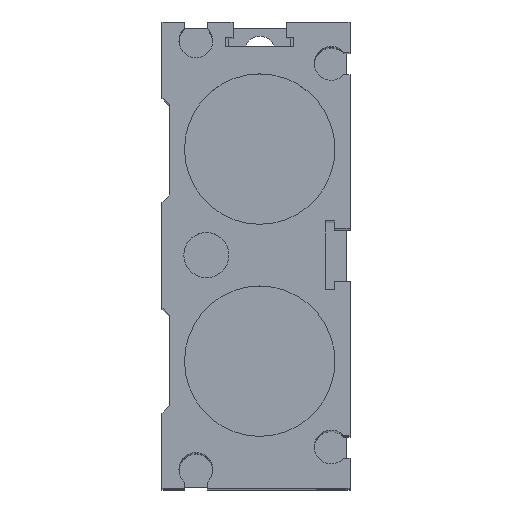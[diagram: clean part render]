
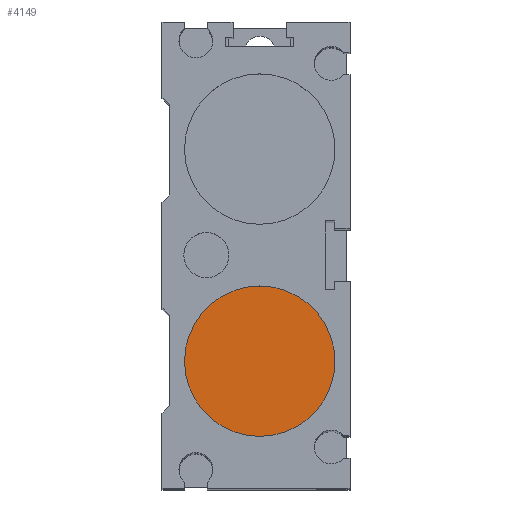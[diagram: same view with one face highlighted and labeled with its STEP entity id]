
A CAD part, top view. The second image highlights one B-rep face of the part: STEP entity #4149.
In plain terms, the highlighted planar face has unit normal (0, 0, 1).
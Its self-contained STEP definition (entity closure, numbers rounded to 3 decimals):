
#4126=CARTESIAN_POINT('',(10.0,-14.1,223.0));
#4127=VERTEX_POINT('',#4126);
#4128=CARTESIAN_POINT('',(0.0,-14.1,223.0));
#4129=DIRECTION('',(0.0,0.0,1.0));
#4130=DIRECTION('',(-1.0,0.0,0.0));
#4131=AXIS2_PLACEMENT_3D('',#4128,#4129,#4130);
#4132=CIRCLE('',#4131,10.0);
#4133=EDGE_CURVE('',#4127,#4127,#4132,.T.);
#4141=CARTESIAN_POINT('',(0.0,-14.1,223.0));
#4142=DIRECTION('',(0.0,0.0,-1.0));
#4143=DIRECTION('',(-1.0,0.0,0.0));
#4144=AXIS2_PLACEMENT_3D('',#4141,#4142,#4143);
#4145=PLANE('',#4144);
#4146=ORIENTED_EDGE('',*,*,#4133,.T.);
#4147=EDGE_LOOP('',(#4146));
#4148=FACE_OUTER_BOUND('',#4147,.T.);
#4149=ADVANCED_FACE('',(#4148),#4145,.F.);
